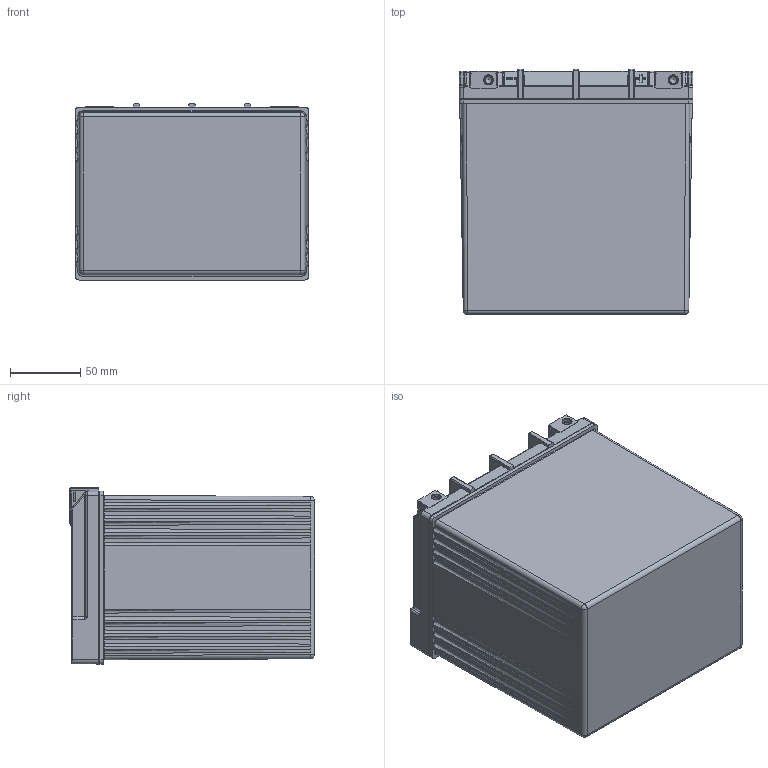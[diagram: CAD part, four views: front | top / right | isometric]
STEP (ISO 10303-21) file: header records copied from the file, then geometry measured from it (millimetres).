
FILE_DESCRIPTION (( 'STEP AP203' ), '1' );
FILE_NAME ('ODS-AGM30L.STEP', '2024-02-26T20:03:04', ( '' ), ( '' ), 'SwSTEP 2.0', 'SolidWorks 2022', '' );
FILE_SCHEMA (( 'CONFIG_CONTROL_DESIGN' ));
Products named in the file (1): ODS-AGM30L
Bounding box: 166.43 x 174.37 x 125.22 mm (x, y, z)
Volume: 669954.6 mm3; surface area: 484107.4 mm2
Topology: 9 solids, 9 shells, 2871 faces, 7258 edges, 4230 vertices
Faces by surface type: cylinder 949, plane 851, bspline 440, torus 307, sphere 221, cone 103
Full cylindrical faces by diameter (mm): 4.978 x1, 5 x4, 10.16 x5, 15.24 x4
Entity records: 97812 total; most frequent: CARTESIAN_POINT 35076, ORIENTED_EDGE 13748, DIRECTION 12279, EDGE_CURVE 6874, AXIS2_PLACEMENT_3D 4633, VERTEX_POINT 4179, EDGE_LOOP 3081, LINE 3013
